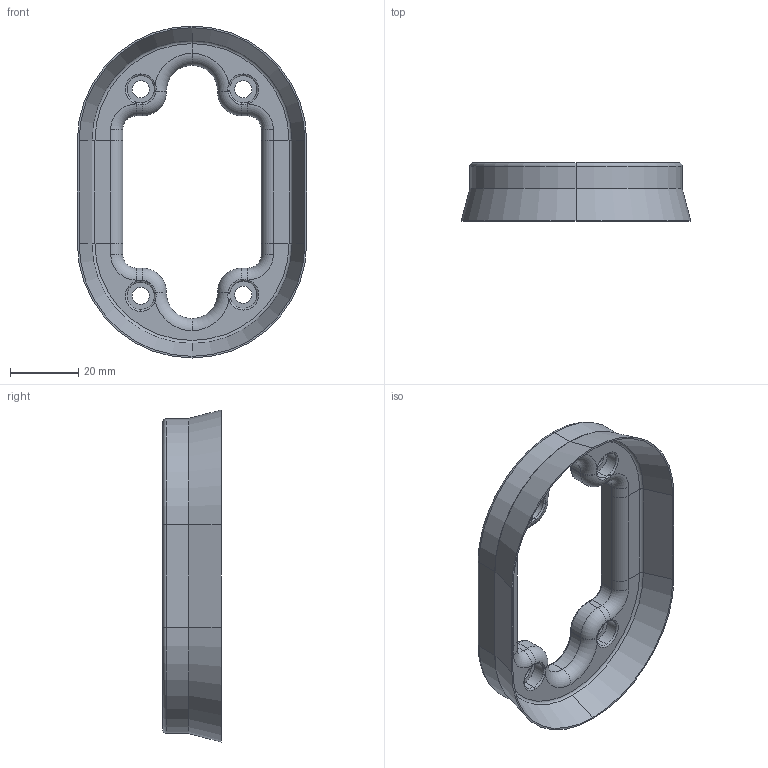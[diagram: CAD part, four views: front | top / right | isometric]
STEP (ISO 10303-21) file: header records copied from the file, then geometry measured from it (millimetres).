
FILE_DESCRIPTION (( 'STEP AP203' ), '1' );
FILE_NAME ('4_95--A_(ind_A).STEP', '2016-07-11T07:30:58', ( '' ), ( '' ), 'SwSTEP 2.0', 'SolidWorks 2016', '' );
FILE_SCHEMA (( 'CONFIG_CONTROL_DESIGN' ));
Length unit declared in the file: millimetre
Products named in the file (1): 4_95--A_(ind_A)
Bounding box: 67 x 17 x 97 mm (x, y, z)
Volume: 22461.6 mm3; surface area: 13628.3 mm2
Topology: 1 solids, 1 shells, 186 faces, 428 edges, 237 vertices
Faces by surface type: cylinder 74, torus 43, plane 35, bspline 18, cone 16
Entity records: 5630 total; most frequent: CARTESIAN_POINT 1387, DIRECTION 947, ORIENTED_EDGE 840, EDGE_CURVE 420, AXIS2_PLACEMENT_3D 397, VERTEX_POINT 237, CIRCLE 228, EDGE_LOOP 197
